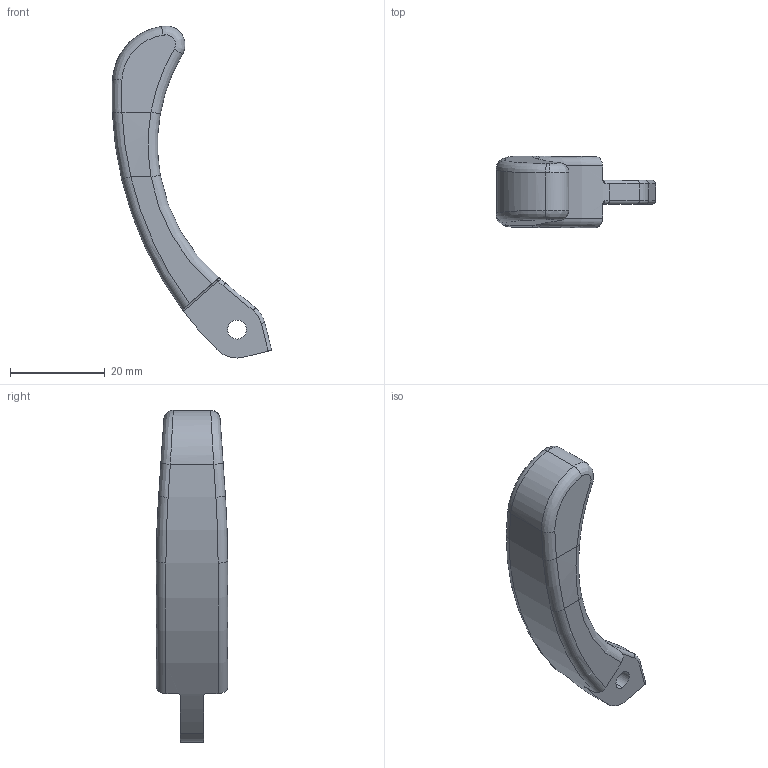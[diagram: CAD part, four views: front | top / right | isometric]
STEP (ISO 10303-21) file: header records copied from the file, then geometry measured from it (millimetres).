
FILE_DESCRIPTION (( 'STEP AP214' ), '1' );
FILE_NAME ('CupHolder Arm.STEP', '2022-12-24T10:32:16', ( ' ' ), ( ' ' ), 'SwSTEP 2.0', 'SolidWorks 2003240', '' );
FILE_SCHEMA (( 'AUTOMOTIVE_DESIGN' ));
Length unit declared in the file: millimetre
Products named in the file (1): CupHolder Arm
Bounding box: 33.55 x 15 x 69.97 mm (x, y, z)
Volume: 8645.1 mm3; surface area: 3438.5 mm2
Topology: 1 solids, 1 shells, 50 faces, 125 edges, 77 vertices
Faces by surface type: cylinder 17, bspline 15, plane 11, torus 7
Entity records: 6695 total; most frequent: CARTESIAN_POINT 5598, ORIENTED_EDGE 250, DIRECTION 194, EDGE_CURVE 125, AXIS2_PLACEMENT_3D 79, VERTEX_POINT 77, EDGE_LOOP 52, ADVANCED_FACE 50
